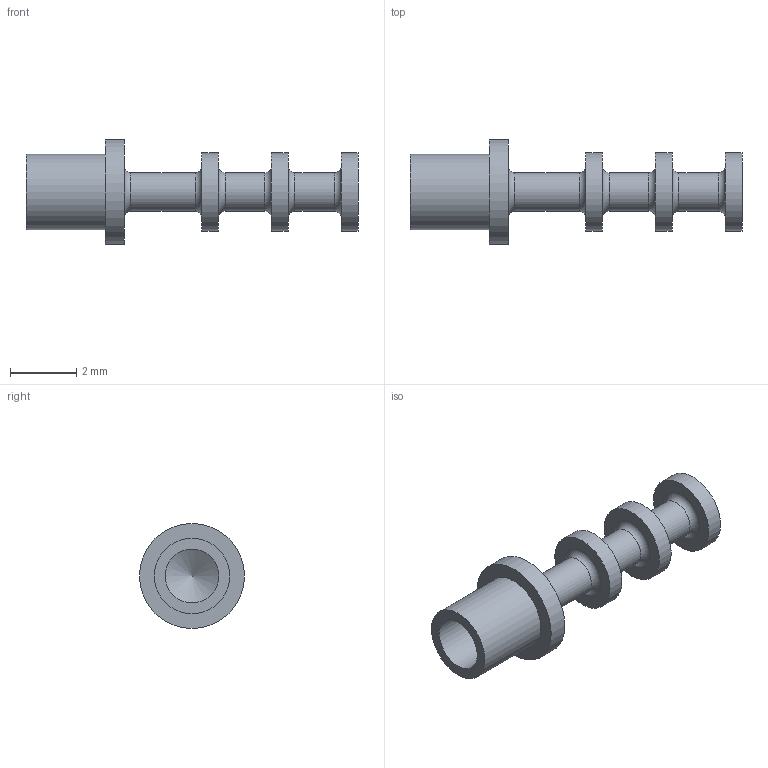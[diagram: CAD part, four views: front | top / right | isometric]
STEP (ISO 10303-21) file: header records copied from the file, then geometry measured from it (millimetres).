
FILE_DESCRIPTION(/* description */ (''),/* implementation_level */ '2;1');
FILE_NAME(/* name */ 'Z:\STEP folder\160-2080-02.ipt.stp',/* time_stamp */ '2016-12-07T10:50:52+00:00',/* author */ ('Paul Karlsons'),/* organization */ (''),/* preprocessor_version */ 'ST-DEVELOPER v15.2',/* originating_system */ 'Autodesk Inventor 2014',/* authorisation */ '');
FILE_SCHEMA (('CONFIG_CONTROL_DESIGN','AUTOMOTIVE_DESIGN { 1 0 10303 214 3 1 1 }'));
Length unit declared in the file: millimetre
Products named in the file (1): 160-2080-02
Bounding box: 10.03 x 3.17 x 3.17 mm (x, y, z)
Volume: 23.6 mm3; surface area: 96.9 mm2
Topology: 1 solids, 1 shells, 25 faces, 41 edges, 25 vertices
Faces by surface type: cylinder 9, plane 9, torus 6, cone 1
Full cylindrical faces by diameter (mm): 1.168 x3, 1.626 x1, 2.286 x1, 2.362 x3, 3.175 x1
Entity records: 515 total; most frequent: DIRECTION 100, CARTESIAN_POINT 74, AXIS2_PLACEMENT_3D 50, EDGE_LOOP 48, ORIENTED_EDGE 48, FACE_BOUND 27, ADVANCED_FACE 25, CIRCLE 24
